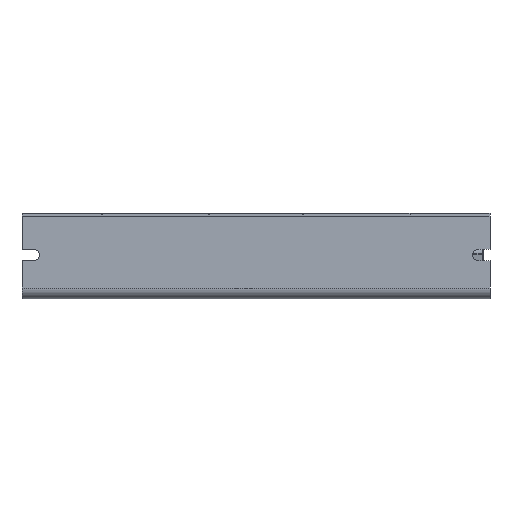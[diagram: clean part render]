
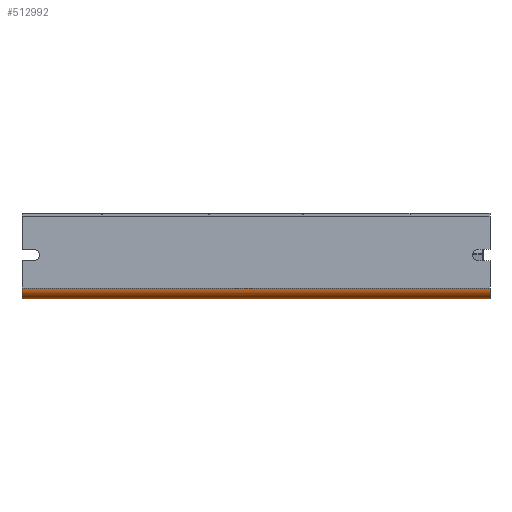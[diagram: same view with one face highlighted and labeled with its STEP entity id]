
A CAD part, front view. The second image highlights one B-rep face of the part: STEP entity #512992.
In plain terms, the highlighted cylindrical face has radius 4 mm (diameter 8 mm), a partial arc.
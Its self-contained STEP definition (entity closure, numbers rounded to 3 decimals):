
#511453 = VERTEX_POINT('',#511454);
#511454 = CARTESIAN_POINT('',(-10.,-4.,-5.6));
#511468 = PLANE('',#511469);
#511469 = AXIS2_PLACEMENT_3D('',#511470,#511471,#511472);
#511470 = CARTESIAN_POINT('',(-10.,0.,-5.6));
#511471 = DIRECTION('',(-1.,0.,0.));
#511472 = DIRECTION('',(0.,0.,-1.));
#511496 = PLANE('',#511497);
#511497 = AXIS2_PLACEMENT_3D('',#511498,#511499,#511500);
#511498 = CARTESIAN_POINT('',(77.75,-4.,7.9));
#511499 = DIRECTION('',(0.,1.,0.));
#511500 = DIRECTION('',(0.,0.,-1.));
#511972 = EDGE_CURVE('',#511453,#511973,#511975,.T.);
#511973 = VERTEX_POINT('',#511974);
#511974 = CARTESIAN_POINT('',(165.5,-4.,-5.6));
#511975 = SURFACE_CURVE('',#511976,(#511980,#511987),.PCURVE_S1.);
#511976 = LINE('',#511977,#511978);
#511977 = CARTESIAN_POINT('',(-10.,-4.,-5.6));
#511978 = VECTOR('',#511979,1.);
#511979 = DIRECTION('',(1.,0.,0.));
#511980 = PCURVE('',#511496,#511981);
#511981 = DEFINITIONAL_REPRESENTATION('',(#511982),#511986);
#511982 = LINE('',#511983,#511984);
#511983 = CARTESIAN_POINT('',(13.5,87.75));
#511984 = VECTOR('',#511985,1.);
#511985 = DIRECTION('',(0.,-1.));
#511986 = ( GEOMETRIC_REPRESENTATION_CONTEXT(2) 
PARAMETRIC_REPRESENTATION_CONTEXT() REPRESENTATION_CONTEXT('2D SPACE',''
  ) );
#511987 = PCURVE('',#511988,#511993);
#511988 = CYLINDRICAL_SURFACE('',#511989,4.);
#511989 = AXIS2_PLACEMENT_3D('',#511990,#511991,#511992);
#511990 = CARTESIAN_POINT('',(-10.,0.,-5.6));
#511991 = DIRECTION('',(1.,0.,0.));
#511992 = DIRECTION('',(0.,0.,-1.));
#511993 = DEFINITIONAL_REPRESENTATION('',(#511994),#511998);
#511994 = LINE('',#511995,#511996);
#511995 = CARTESIAN_POINT('',(-1.571,0.));
#511996 = VECTOR('',#511997,1.);
#511997 = DIRECTION('',(-0.,1.));
#511998 = ( GEOMETRIC_REPRESENTATION_CONTEXT(2) 
PARAMETRIC_REPRESENTATION_CONTEXT() REPRESENTATION_CONTEXT('2D SPACE',''
  ) );
#512293 = EDGE_CURVE('',#512294,#511453,#512296,.T.);
#512294 = VERTEX_POINT('',#512295);
#512295 = CARTESIAN_POINT('',(-10.,0.,-9.6));
#512296 = SURFACE_CURVE('',#512297,(#512302,#512309),.PCURVE_S1.);
#512297 = CIRCLE('',#512298,4.);
#512298 = AXIS2_PLACEMENT_3D('',#512299,#512300,#512301);
#512299 = CARTESIAN_POINT('',(-10.,0.,-5.6));
#512300 = DIRECTION('',(-1.,0.,0.));
#512301 = DIRECTION('',(0.,0.,-1.));
#512302 = PCURVE('',#511468,#512303);
#512303 = DEFINITIONAL_REPRESENTATION('',(#512304),#512308);
#512304 = CIRCLE('',#512305,4.);
#512305 = AXIS2_PLACEMENT_2D('',#512306,#512307);
#512306 = CARTESIAN_POINT('',(0.,0.));
#512307 = DIRECTION('',(1.,-0.));
#512308 = ( GEOMETRIC_REPRESENTATION_CONTEXT(2) 
PARAMETRIC_REPRESENTATION_CONTEXT() REPRESENTATION_CONTEXT('2D SPACE',''
  ) );
#512309 = PCURVE('',#511988,#512310);
#512310 = DEFINITIONAL_REPRESENTATION('',(#512311),#512315);
#512311 = LINE('',#512312,#512313);
#512312 = CARTESIAN_POINT('',(-0.,0.));
#512313 = VECTOR('',#512314,1.);
#512314 = DIRECTION('',(-1.,0.));
#512315 = ( GEOMETRIC_REPRESENTATION_CONTEXT(2) 
PARAMETRIC_REPRESENTATION_CONTEXT() REPRESENTATION_CONTEXT('2D SPACE',''
  ) );
#512383 = PLANE('',#512384);
#512384 = AXIS2_PLACEMENT_3D('',#512385,#512386,#512387);
#512385 = CARTESIAN_POINT('',(165.5,0.,-5.6));
#512386 = DIRECTION('',(-1.,0.,0.));
#512387 = DIRECTION('',(0.,0.,-1.));
#512992 = ADVANCED_FACE('',(#512993),#511988,.T.);
#512993 = FACE_BOUND('',#512994,.F.);
#512994 = EDGE_LOOP('',(#512995,#512996,#512997,#513021));
#512995 = ORIENTED_EDGE('',*,*,#512293,.T.);
#512996 = ORIENTED_EDGE('',*,*,#511972,.T.);
#512997 = ORIENTED_EDGE('',*,*,#512998,.F.);
#512998 = EDGE_CURVE('',#512999,#511973,#513001,.T.);
#512999 = VERTEX_POINT('',#513000);
#513000 = CARTESIAN_POINT('',(165.5,0.,-9.6));
#513001 = SURFACE_CURVE('',#513002,(#513007,#513014),.PCURVE_S1.);
#513002 = CIRCLE('',#513003,4.);
#513003 = AXIS2_PLACEMENT_3D('',#513004,#513005,#513006);
#513004 = CARTESIAN_POINT('',(165.5,0.,-5.6));
#513005 = DIRECTION('',(-1.,0.,0.));
#513006 = DIRECTION('',(0.,0.,-1.));
#513007 = PCURVE('',#511988,#513008);
#513008 = DEFINITIONAL_REPRESENTATION('',(#513009),#513013);
#513009 = LINE('',#513010,#513011);
#513010 = CARTESIAN_POINT('',(-0.,175.5));
#513011 = VECTOR('',#513012,1.);
#513012 = DIRECTION('',(-1.,0.));
#513013 = ( GEOMETRIC_REPRESENTATION_CONTEXT(2) 
PARAMETRIC_REPRESENTATION_CONTEXT() REPRESENTATION_CONTEXT('2D SPACE',''
  ) );
#513014 = PCURVE('',#512383,#513015);
#513015 = DEFINITIONAL_REPRESENTATION('',(#513016),#513020);
#513016 = CIRCLE('',#513017,4.);
#513017 = AXIS2_PLACEMENT_2D('',#513018,#513019);
#513018 = CARTESIAN_POINT('',(0.,0.));
#513019 = DIRECTION('',(1.,0.));
#513020 = ( GEOMETRIC_REPRESENTATION_CONTEXT(2) 
PARAMETRIC_REPRESENTATION_CONTEXT() REPRESENTATION_CONTEXT('2D SPACE',''
  ) );
#513021 = ORIENTED_EDGE('',*,*,#513022,.T.);
#513022 = EDGE_CURVE('',#512999,#512294,#513023,.T.);
#513023 = SURFACE_CURVE('',#513024,(#513028,#513035),.PCURVE_S1.);
#513024 = LINE('',#513025,#513026);
#513025 = CARTESIAN_POINT('',(165.5,0.,-9.6));
#513026 = VECTOR('',#513027,1.);
#513027 = DIRECTION('',(-1.,0.,0.));
#513028 = PCURVE('',#511988,#513029);
#513029 = DEFINITIONAL_REPRESENTATION('',(#513030),#513034);
#513030 = LINE('',#513031,#513032);
#513031 = CARTESIAN_POINT('',(-0.,175.5));
#513032 = VECTOR('',#513033,1.);
#513033 = DIRECTION('',(-0.,-1.));
#513034 = ( GEOMETRIC_REPRESENTATION_CONTEXT(2) 
PARAMETRIC_REPRESENTATION_CONTEXT() REPRESENTATION_CONTEXT('2D SPACE',''
  ) );
#513035 = PCURVE('',#513036,#513041);
#513036 = PLANE('',#513037);
#513037 = AXIS2_PLACEMENT_3D('',#513038,#513039,#513040);
#513038 = CARTESIAN_POINT('',(165.5,0.,-9.6));
#513039 = DIRECTION('',(0.,0.,1.));
#513040 = DIRECTION('',(-1.,0.,0.));
#513041 = DEFINITIONAL_REPRESENTATION('',(#513042),#513046);
#513042 = LINE('',#513043,#513044);
#513043 = CARTESIAN_POINT('',(0.,0.));
#513044 = VECTOR('',#513045,1.);
#513045 = DIRECTION('',(1.,0.));
#513046 = ( GEOMETRIC_REPRESENTATION_CONTEXT(2) 
PARAMETRIC_REPRESENTATION_CONTEXT() REPRESENTATION_CONTEXT('2D SPACE',''
  ) );
